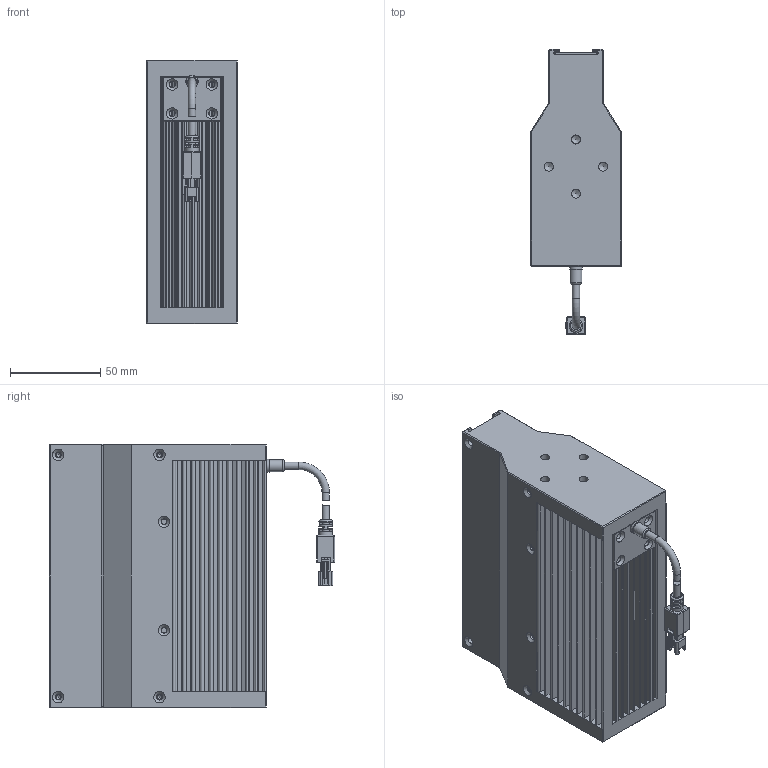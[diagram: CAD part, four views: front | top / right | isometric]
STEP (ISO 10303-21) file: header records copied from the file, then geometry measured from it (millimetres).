
FILE_DESCRIPTION (( 'STEP AP203' ), '1' );
FILE_NAME ('OPT-LSNL146-W-V1.0U尨砩芞.STEP', '2025-02-17T08:42:39', ( '' ), ( '' ), 'SwSTEP 2.0', 'SolidWorks 2016', '' );
FILE_SCHEMA (( 'CONFIG_CONTROL_DESIGN' ));
Length unit declared in the file: millimetre
Products named in the file (1): OPT-LSNL146-W-V1.0U尨砩芞
Bounding box: 50.02 x 158 x 146 mm (x, y, z)
Volume: 546935.1 mm3; surface area: 184885.2 mm2
Topology: 9 solids, 16 shells, 1001 faces, 2751 edges, 1769 vertices
Faces by surface type: plane 600, cylinder 328, cone 44, bspline 21, torus 8
Full cylindrical faces by diameter (mm): 1.1 x2, 1.4 x2, 2.5 x10, 3 x8, 3.4 x16, 3.5 x1, 4.1 x4, 5 x8, 5.8 x1, 6.5 x1, 7 x1, 7.5 x1
Entity records: 33950 total; most frequent: CARTESIAN_POINT 9584, ORIENTED_EDGE 5172, DIRECTION 4732, EDGE_CURVE 2586, VERTEX_POINT 1714, LINE 1676, VECTOR 1676, AXIS2_PLACEMENT_3D 1528
